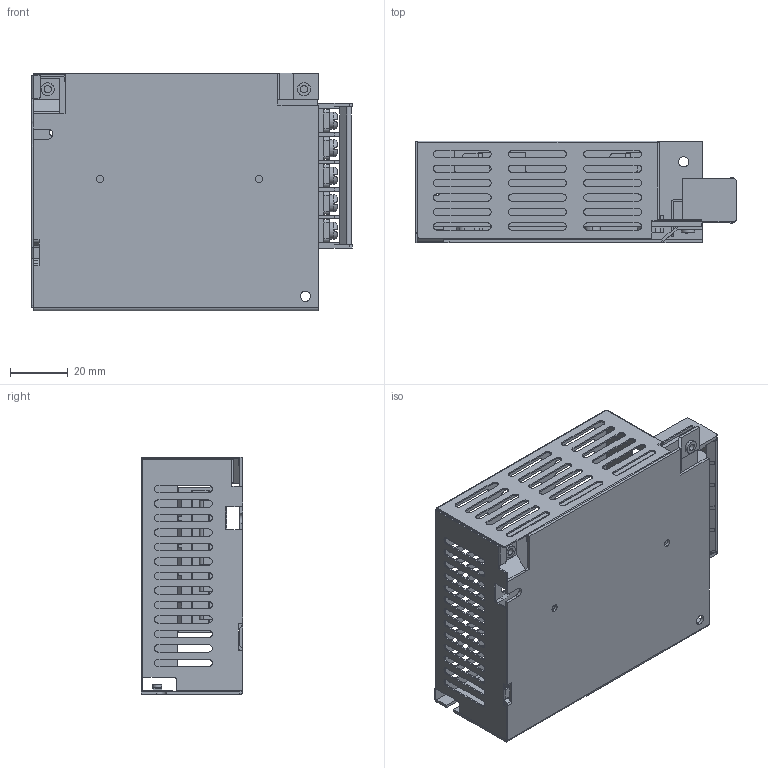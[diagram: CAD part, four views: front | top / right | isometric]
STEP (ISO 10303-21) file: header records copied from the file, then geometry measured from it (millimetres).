
FILE_DESCRIPTION (( 'STEP AP214' ), '1' );
FILE_NAME ('TXL-035-xx.STEP', '2019-07-09T09:02:23', ( 'users' ), ( '' ), 'SwSTEP 2.0', 'SolidWorks 2012', '' );
FILE_SCHEMA (( 'AUTOMOTIVE_DESIGN' ));
Length unit declared in the file: millimetre
Products named in the file (5): TML; PCB; COVER; CASE; TXL-035-xx
Assembly tree (4 placements, depth 2):
  TXL-035-xx
    CASE
    COVER
    PCB
    TML
Bounding box: 110.64 x 35 x 82 mm (x, y, z)
Volume: 36376.4 mm3; surface area: 69728.4 mm2
Topology: 5 solids, 5 shells, 1092 faces, 3066 edges, 1995 vertices
Faces by surface type: plane 669, cylinder 402, torus 10, cone 10, bspline 1
Entity records: 39160 total; most frequent: CARTESIAN_POINT 6512, ORIENTED_EDGE 6132, DIRECTION 6034, EDGE_CURVE 3066, VECTOR 2132, LINE 2132, VERTEX_POINT 1995, AXIS2_PLACEMENT_3D 1951
